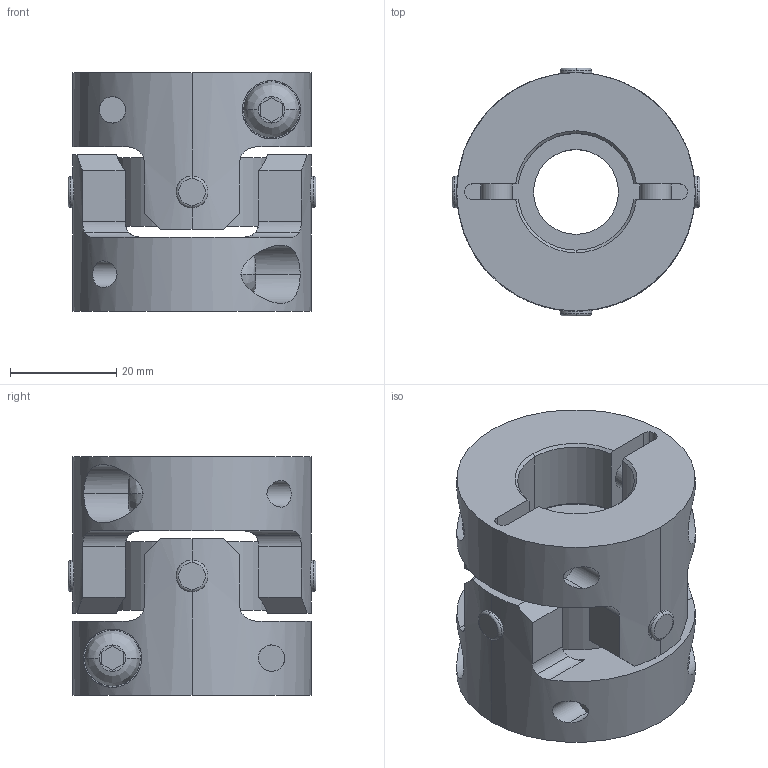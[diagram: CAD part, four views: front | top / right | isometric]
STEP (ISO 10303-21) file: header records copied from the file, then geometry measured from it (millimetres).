
FILE_DESCRIPTION((''),'2;1');
FILE_NAME('UA-45C-19×22.stp','2013-05-22T09:48:46',(''),(''),'AutoCAD STEP 2000i','AutoCAD 2000i',', , ');
FILE_SCHEMA(('CONFIG_CONTROL_DESIGN'));
Length unit declared in the file: millimetre
Products named in the file (8): UA-45C-17×17; 忣兜1; UA-4502-D17-1; BTN-M6; UA-4502-D17; UA-4502-D08-1; UA-4502-D08; UA45-SEN
Assembly tree (10 placements, depth 3):
  UA-45C-17×17
    忣兜1
    UA-4502-D17-1
      BTN-M6
    UA-4502-D17
      BTN-M6
    UA-4502-D08-1
      BTN-M6
    UA-4502-D08
      BTN-M6
    UA45-SEN
Bounding box: 46.73 x 46.73 x 45 mm (x, y, z)
Volume: 45950.4 mm3; surface area: 19128.1 mm2
Topology: 1 solids, 1 shells, 206 faces, 554 edges, 364 vertices
Faces by surface type: cylinder 96, plane 78, cone 16, bspline 8, torus 8
Entity records: 8551 total; most frequent: CARTESIAN_POINT 3195, ORIENTED_EDGE 1108, DIRECTION 1072, EDGE_CURVE 554, AXIS2_PLACEMENT_3D 413, VERTEX_POINT 364, VECTOR 246, LINE 246
